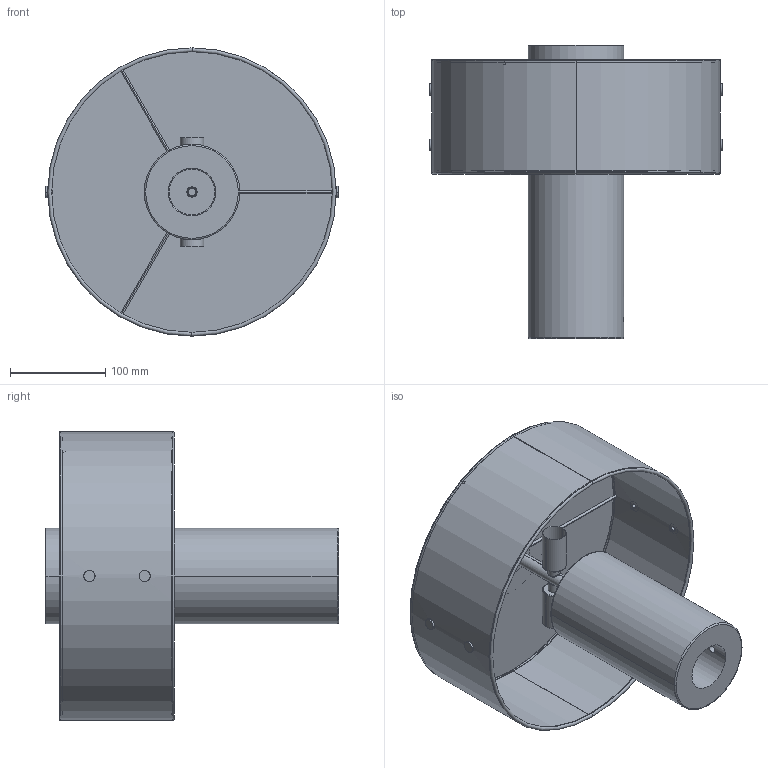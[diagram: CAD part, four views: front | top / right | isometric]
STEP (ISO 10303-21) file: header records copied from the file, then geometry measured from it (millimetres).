
FILE_DESCRIPTION (( 'STEP AP214' ), '1' );
FILE_NAME ('XETA_S1362.STEP', '2026-06-25T10:10:37', ( '' ), ( '' ), 'SwSTEP 2.0', 'SolidWorks 2023', '' );
FILE_SCHEMA (( 'AUTOMOTIVE_DESIGN' ));
Length unit declared in the file: millimetre
Products named in the file (9): CHEJIAN-D12XH7MM.stp; YUANTIEPIAN-D50XH2MM.stp; DENGBEI-D42MM.stp; CO-126013.stp; DALISHIDIZUO-D100MM.stp; DALISHIZHUANGSHIJIAN.stp; GUANHUANJIEZU.stp; BUDENGZHAO-L300XW115XH120MM.stp; XETA_S1362
Assembly tree (12 placements, depth 3):
  XETA_S1362
    CO-126013.stp
      DALISHIDIZUO-D100MM.stp
      YUANTIEPIAN-D50XH2MM.stp
      GUANHUANJIEZU.stp
      BUDENGZHAO-L300XW115XH120MM.stp
      DALISHIZHUANGSHIJIAN.stp
      DENGBEI-D42MM.stp  x2
      CHEJIAN-D12XH7MM.stp  x4
Bounding box: 307 x 307.01 x 302 mm (x, y, z)
Volume: 1637186.3 mm3; surface area: 520242.7 mm2
Topology: 12 solids, 12 shells, 251 faces, 547 edges, 333 vertices
Faces by surface type: cylinder 108, cone 52, plane 49, torus 30, bspline 12
Entity records: 8811 total; most frequent: CARTESIAN_POINT 4411, DIRECTION 873, ORIENTED_EDGE 844, EDGE_CURVE 422, AXIS2_PLACEMENT_3D 383, VERTEX_POINT 257, EDGE_LOOP 221, FACE_OUTER_BOUND 190
